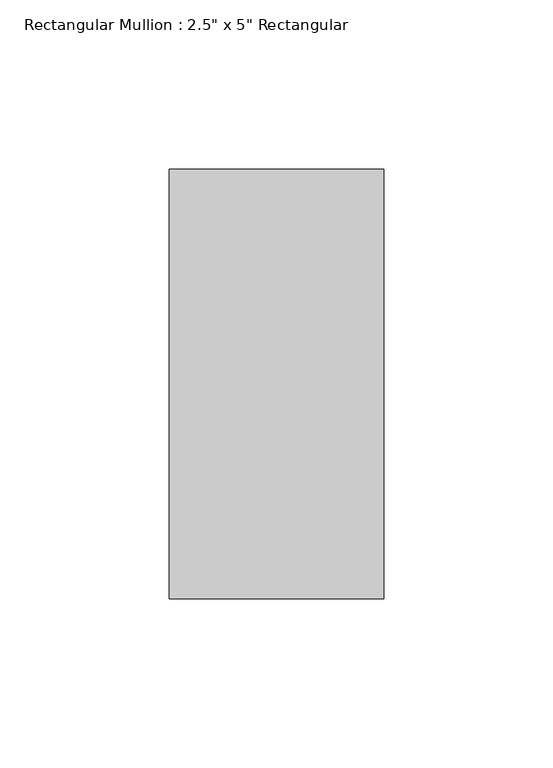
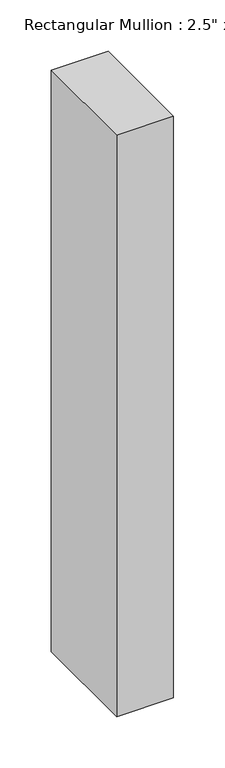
"""IFC4 building model written with IfcOpenShell, lengths in millimetres: member geometry."""

from ifc_helpers import new_model, si_unit, frame, origin, place, context, project, spatial, polyline, outline, extrude, source, transform, mapped, element, save


def member_f444ca48(model_context):
    return source(origin(), model_context, "Body", "SweptSolid", [
        extrude(outline(polyline([(0.0, 63.5), (0.0, -63.5), (-63.5, -63.5), (-63.5, 63.5), (0.0, 63.5)])), frame((0.0, 0.0, -689.5277877), z_axis=(0.0, 0.0, 1.0), x_axis=(1.0, 0.0, 0.0)), (0.0, 0.0, 1.0), 689.5277877),
    ])


if __name__ == "__main__":
    model = new_model("IFC4")
    model_context = context("Model", 3, world=origin())
    ifc_project = project(units=[si_unit("LENGTHUNIT", "METRE", prefix="MILLI")], contexts=[model_context])
    site = spatial("IfcSite", under=ifc_project)
    building = spatial("IfcBuilding", under=site)
    placement = place(None, origin())
    member_shape = member_f444ca48(model_context)
    element("IfcMember", 1, ObjectType="Rectangular Mullion : 2.5\" x 5\" Rectangular", at=placement, inside=building, context=model_context, shape_type="MappedRepresentation", body=[
        mapped(member_shape, transform((0.0, 0.0, 0.0), x_axis=(1.0, 0.0, 0.0), y_axis=(0.0, 1.0, 0.0), z_axis=(0.0, 0.0, 1.0))),
    ])
    save(model, "model.ifc")
